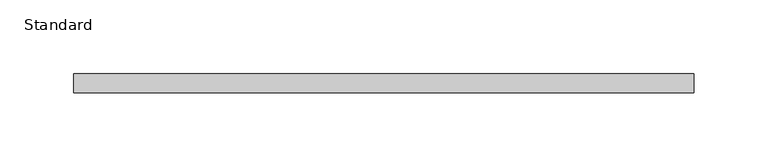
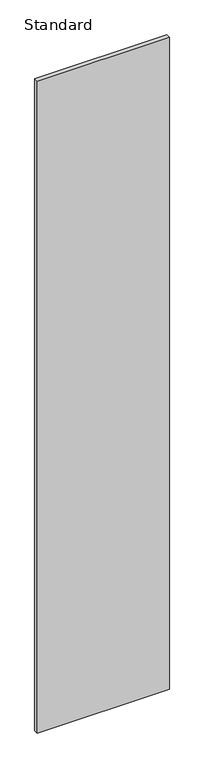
"""IFC4 building model written with IfcOpenShell, lengths in millimetres: furniture geometry, X_Partition-Compact Laminate-Duracube-Rectangular : Standard."""

import ifcopenshell
import ifcopenshell.guid

model = None  # the IFC model being written
_history = None  # IfcOwnerHistory: only IFC2X3 demands one
_inside = {}  # id of a spatial element -> (the spatial element, [elements in it])
_under = {}  # id of a project, library or spatial element -> (it, [spatial elements below it])
_declared = {}  # id of a project -> (the project, [libraries it declares])
_typed = {}  # id of a type object -> (the type object, [elements of that type])
_made_of = {}  # id of a material, layer set ... -> (it, [elements and type objects made of it])


def new_model(schema):
    """Start an empty IFC model of exactly this schema.

    Asked for "IFC4X3", IfcOpenShell would pick the latest addendum, in which some entities
    have other attributes; the version numbers below select the first issue.
    IFC2X3 requires an IfcOwnerHistory on every rooted entity: one is made here for all.
    """
    global model, _history
    if schema == "IFC4X3":
        model = ifcopenshell.file(schema_version=(4, 3, 0, 0))
    else:
        model = ifcopenshell.file(schema=schema)
    _inside.clear()
    _under.clear()
    _declared.clear()
    _typed.clear()
    _made_of.clear()
    _history = None
    if model.schema == "IFC2X3":
        org = make("IfcOrganization", Name="unknown")
        user = make(
            "IfcPersonAndOrganization",
            ThePerson=make("IfcPerson", FamilyName="unknown"),
            TheOrganization=org,
        )
        app = make(
            "IfcApplication",
            ApplicationDeveloper=org,
            Version="unknown",
            ApplicationFullName="unknown",
            ApplicationIdentifier="unknown",
        )
        _history = make(
            "IfcOwnerHistory",
            OwningUser=user,
            OwningApplication=app,
            ChangeAction="ADDED",
            CreationDate=0,
        )
    return model


def make(cls, **values):
    """One entity of the class cls with the attributes given. An attribute that is None is left unset."""
    return model.create_entity(
        cls, **{name: value for name, value in values.items() if value is not None}
    )


def rooted(cls, **values):
    """An entity with a GlobalId (a new one), such as an element, a storey or a relation."""
    return make(cls, GlobalId=ifcopenshell.guid.new(), OwnerHistory=_history, **values)


def si_unit(unit_type, name, prefix=None):
    """IfcSIUnit, for example si_unit("LENGTHUNIT", "METRE", prefix="MILLI")."""
    return make("IfcSIUnit", UnitType=unit_type, Prefix=prefix, Name=name)


def assignment(units):
    """IfcUnitAssignment: the units of a project."""
    return None if units is None else make("IfcUnitAssignment", Units=units)


def point(xyz):
    """IfcCartesianPoint."""
    return None if xyz is None else make("IfcCartesianPoint", Coordinates=xyz)


def direction(xyz):
    """IfcDirection."""
    return None if xyz is None else make("IfcDirection", DirectionRatios=xyz)


def frame(location, z_axis=None, x_axis=None):
    """IfcAxis2Placement3D, a coordinate frame: its origin and axes. An axis left out is left unset."""
    return make(
        "IfcAxis2Placement3D",
        Location=point(location),
        Axis=direction(z_axis),
        RefDirection=direction(x_axis),
    )


def origin():
    """The frame at (0, 0, 0) with its axes left unset."""
    return frame((0.0, 0.0, 0.0))


def place(relative_to, where):
    """IfcLocalPlacement: puts the frame where relative to a parent placement (None: the world)."""
    return make(
        "IfcLocalPlacement", PlacementRelTo=relative_to, RelativePlacement=where
    )


def context(
    kind, dimensions, precision=None, world=None, true_north=None, identifier=None
):
    """IfcGeometricRepresentationContext, for example the 3D "Model" context."""
    return make(
        "IfcGeometricRepresentationContext",
        ContextIdentifier=identifier,
        ContextType=kind,
        CoordinateSpaceDimension=dimensions,
        Precision=precision,
        WorldCoordinateSystem=world,
        TrueNorth=true_north,
    )


def project(units=None, contexts=None):
    """IfcProject with its units and contexts."""
    return rooted(
        "IfcProject",
        Name="project",
        RepresentationContexts=contexts,
        UnitsInContext=assignment(units),
    )


def spatial(cls, under=None, at=None, **own):
    """A site, building, storey or space (cls), placed at a placement, below another one or the project."""
    s = rooted(cls, ObjectPlacement=at, **own)
    if under is not None:
        _under.setdefault(under.id(), (under, []))[1].append(s)
    return s


def polyline(points):
    """IfcPolyline through the points."""
    return make("IfcPolyline", Points=[point(p) for p in points])


def outline(outer, holes=None, kind="AREA"):
    """IfcArbitraryClosedProfileDef: a profile drawn as a closed curve; with holes, ...WithVoids."""
    if holes is None:
        return make("IfcArbitraryClosedProfileDef", ProfileType=kind, OuterCurve=outer)
    return make(
        "IfcArbitraryProfileDefWithVoids",
        ProfileType=kind,
        OuterCurve=outer,
        InnerCurves=holes,
    )


def extrude(swept, where, along, depth):
    """IfcExtrudedAreaSolid: the profile swept, set in the frame where, extruded along a direction by depth."""
    return make(
        "IfcExtrudedAreaSolid",
        SweptArea=swept,
        Position=where,
        ExtrudedDirection=direction(along),
        Depth=depth,
    )


def shape(context_of_items, identifier, shape_type, items):
    """IfcShapeRepresentation: the items that make up one representation, for example the "Body"."""
    return make(
        "IfcShapeRepresentation",
        ContextOfItems=context_of_items,
        RepresentationIdentifier=identifier,
        RepresentationType=shape_type,
        Items=items,
    )


def source(mapping_origin, context_of_items, identifier, shape_type, items):
    """IfcRepresentationMap: a shape defined once, which mapped items show again and again."""
    return make(
        "IfcRepresentationMap",
        MappingOrigin=mapping_origin,
        MappedRepresentation=shape(context_of_items, identifier, shape_type, items),
    )


def transform(
    local_origin,
    x_axis=None,
    y_axis=None,
    z_axis=None,
    scale=None,
    scale2=None,
    scale3=None,
    uniform=True,
):
    """IfcCartesianTransformationOperator3D, or its non-uniform kind. x_axis, y_axis, z_axis: its Axis1, 2, 3."""
    if uniform:
        return make(
            "IfcCartesianTransformationOperator3D",
            Axis1=direction(x_axis),
            Axis2=direction(y_axis),
            LocalOrigin=point(local_origin),
            Scale=scale,
            Axis3=direction(z_axis),
        )
    return make(
        "IfcCartesianTransformationOperator3DnonUniform",
        Axis1=direction(x_axis),
        Axis2=direction(y_axis),
        LocalOrigin=point(local_origin),
        Scale=scale,
        Axis3=direction(z_axis),
        Scale2=scale2,
        Scale3=scale3,
    )


def mapped(mapping_source, mapping_target):
    """IfcMappedItem: shows the shape of a source again, moved by a transform."""
    return make(
        "IfcMappedItem", MappingSource=mapping_source, MappingTarget=mapping_target
    )


def made_of(thing, what):
    """Note that an element or type object is made of a material, layer set ...; save() writes the relation."""
    if what is not None:
        _made_of.setdefault(what.id(), (what, []))[1].append(thing)
    return thing


def element(
    cls,
    number,
    at=None,
    inside=None,
    cuts=None,
    type_object=None,
    material=None,
    context=None,
    identifier="Body",
    shape_type=None,
    held_by="IfcProductDefinitionShape",
    body=None,
    shapes=None,
    **own,
):
    """One element of the class cls, such as IfcWall. Its Tag is "e" and its number.

    at: its placement. inside: the storey or other place that contains it. cuts: it is an
    opening in that element (IfcRelVoidsElement). A single representation is given by context,
    identifier, shape_type and body (its items); several are given by shapes. held_by: the class
    of the entity that holds the representations. save() writes the other relations.
    """
    e = rooted(cls, Tag="e%d" % number, ObjectPlacement=at, **own)
    if body is not None:
        shapes = [shape(context, identifier, shape_type, body)]
    if shapes is not None:
        e.Representation = make(held_by, Representations=shapes)
    if inside is not None:
        _inside.setdefault(inside.id(), (inside, []))[1].append(e)
    if cuts is not None:
        rooted(
            "IfcRelVoidsElement", RelatingBuildingElement=cuts, RelatedOpeningElement=e
        )
    if type_object is not None:
        _typed.setdefault(type_object.id(), (type_object, []))[1].append(e)
    return made_of(e, material)


def aggregate(whole, parts):
    """IfcRelAggregates: a whole, such as a stair, and the parts it consists of."""
    return rooted("IfcRelAggregates", RelatingObject=whole, RelatedObjects=parts)


def save(model, path):
    """Write the relations noted so far, then the file.

    IfcRelAggregates (storeys below a building ...), IfcRelContainedInSpatialStructure (elements
    in a storey), IfcRelDefinesByType, IfcRelAssociatesMaterial and IfcRelDeclares: one each for
    every whole, place, type object, material and project.
    """
    for whole, parts in _under.values():
        aggregate(whole, parts)
    for where, things in _inside.values():
        rooted(
            "IfcRelContainedInSpatialStructure",
            RelatedElements=things,
            RelatingStructure=where,
        )
    for kind, things in _typed.values():
        rooted("IfcRelDefinesByType", RelatedObjects=things, RelatingType=kind)
    for what, things in _made_of.values():
        rooted("IfcRelAssociatesMaterial", RelatedObjects=things, RelatingMaterial=what)
    for by, libraries in _declared.values():
        rooted("IfcRelDeclares", RelatingContext=by, RelatedDefinitions=libraries)
    model.write(path)


def standard_c5de867e(model_context):
    return source(origin(), model_context, "Body", "SweptSolid", [
        extrude(outline(polyline([(255.5336598, 0.0), (255.5336598, -13.0), (-166.1330069, -13.0), (-166.1330069, 0.0), (255.5336598, 0.0)])), frame((0.0, 0.0, 200.0), z_axis=(0.0, 0.0, 1.0), x_axis=(1.0, 0.0, 0.0)), (0.0, 0.0, 1.0), 2198.0),
    ])


if __name__ == "__main__":
    model = new_model("IFC4")
    model_context = context("Model", 3, world=origin())
    ifc_project = project(units=[si_unit("LENGTHUNIT", "METRE", prefix="MILLI")], contexts=[model_context])
    site = spatial("IfcSite", under=ifc_project)
    building = spatial("IfcBuilding", under=site)
    placement = place(None, origin())
    standard_shape = standard_c5de867e(model_context)
    element("IfcFurniture", 1, ObjectType="X_Partition-Compact Laminate-Duracube-Rectangular : Standard", at=placement, inside=building, context=model_context, shape_type="MappedRepresentation", body=[
        mapped(standard_shape, transform((0.0, 0.0, 0.0), x_axis=(1.0, 0.0, 0.0), y_axis=(0.0, 1.0, 0.0), z_axis=(0.0, 0.0, 1.0))),
    ])
    save(model, "model.ifc")
